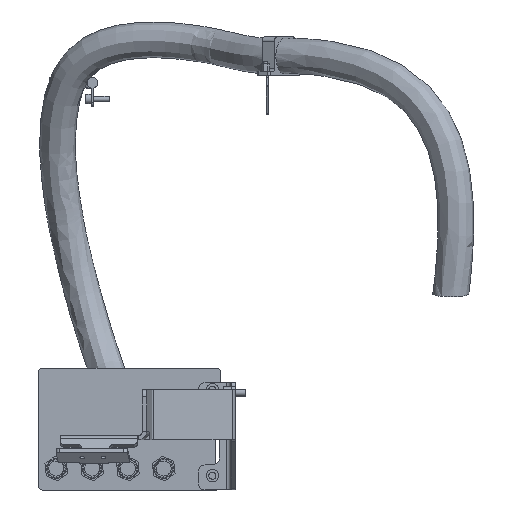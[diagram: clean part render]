
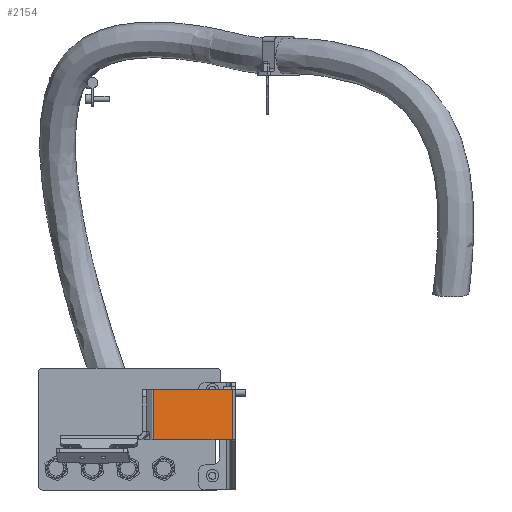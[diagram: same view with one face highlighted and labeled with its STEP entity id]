
A CAD part, left-side view. The second image highlights one B-rep face of the part: STEP entity #2154.
In plain terms, the highlighted planar face has unit normal (-0.766, -0.643, 0).
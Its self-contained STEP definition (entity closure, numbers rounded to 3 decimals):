
#731 = CARTESIAN_POINT ( 'NONE',  ( 213.394, -82.813, 1869. ) ) ;
#767 = DIRECTION ( 'NONE',  ( 0., 0., -1. ) ) ;
#1364 = DIRECTION ( 'NONE',  ( -0.766, -0.643, 0. ) ) ;
#1671 = ORIENTED_EDGE ( 'NONE', *, *, #16587, .T. ) ;
#2154 = ADVANCED_FACE ( 'NONE', ( #17669 ), #16374, .T. ) ;
#2162 = EDGE_LOOP ( 'NONE', ( #1671, #2695, #11824, #3601 ) ) ;
#2695 = ORIENTED_EDGE ( 'NONE', *, *, #19109, .F. ) ;
#2758 = CARTESIAN_POINT ( 'NONE',  ( 247.839, -123.863, 1879. ) ) ;
#2902 = CARTESIAN_POINT ( 'NONE',  ( 120.879, 27.442, 1799. ) ) ;
#3009 = CARTESIAN_POINT ( 'NONE',  ( 120.879, 27.442, 1869. ) ) ;
#3601 = ORIENTED_EDGE ( 'NONE', *, *, #17079, .F. ) ;
#3856 = VERTEX_POINT ( 'NONE', #731 ) ;
#4878 = VERTEX_POINT ( 'NONE', #3009 ) ;
#5543 = VECTOR ( 'NONE', #10918, 1000. ) ;
#6004 = CARTESIAN_POINT ( 'NONE',  ( 247.839, -123.863, 1869. ) ) ;
#8030 = LINE ( 'NONE', #12302, #5543 ) ;
#8336 = LINE ( 'NONE', #10033, #19211 ) ;
#9269 = VERTEX_POINT ( 'NONE', #10103 ) ;
#10033 = CARTESIAN_POINT ( 'NONE',  ( 213.394, -82.813, 1879. ) ) ;
#10103 = CARTESIAN_POINT ( 'NONE',  ( 213.394, -82.813, 1799. ) ) ;
#10181 = CARTESIAN_POINT ( 'NONE',  ( 247.839, -123.863, 1799. ) ) ;
#10918 = DIRECTION ( 'NONE',  ( 0., 0., 1. ) ) ;
#11666 = LINE ( 'NONE', #6004, #13895 ) ;
#11824 = ORIENTED_EDGE ( 'NONE', *, *, #12806, .T. ) ;
#12302 = CARTESIAN_POINT ( 'NONE',  ( 120.879, 27.442, 1799. ) ) ;
#12806 = EDGE_CURVE ( 'NONE', #18162, #9269, #13125, .T. ) ;
#13125 = LINE ( 'NONE', #10181, #16398 ) ;
#13505 = DIRECTION ( 'NONE',  ( 0.643, -0.766, 0. ) ) ;
#13895 = VECTOR ( 'NONE', #18109, 1000. ) ;
#14239 = AXIS2_PLACEMENT_3D ( 'NONE', #2758, #1364, #13505 ) ;
#16189 = DIRECTION ( 'NONE',  ( 0.643, -0.766, 0. ) ) ;
#16374 = PLANE ( 'NONE',  #14239 ) ;
#16398 = VECTOR ( 'NONE', #16189, 1000. ) ;
#16587 = EDGE_CURVE ( 'NONE', #3856, #4878, #11666, .T. ) ;
#17079 = EDGE_CURVE ( 'NONE', #3856, #9269, #8336, .T. ) ;
#17669 = FACE_OUTER_BOUND ( 'NONE', #2162, .T. ) ;
#18109 = DIRECTION ( 'NONE',  ( -0.643, 0.766, 0. ) ) ;
#18162 = VERTEX_POINT ( 'NONE', #2902 ) ;
#19109 = EDGE_CURVE ( 'NONE', #18162, #4878, #8030, .T. ) ;
#19211 = VECTOR ( 'NONE', #767, 1000. ) ;
